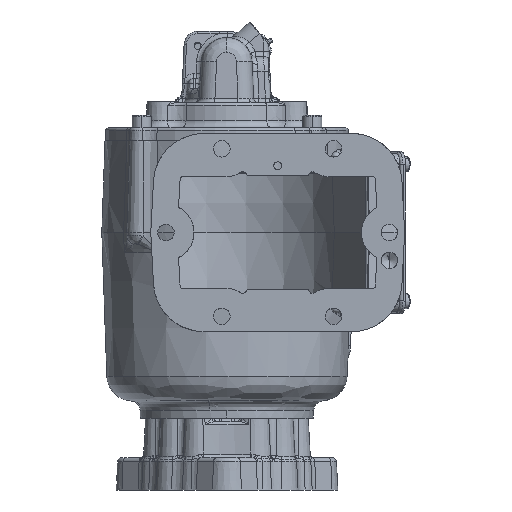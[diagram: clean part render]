
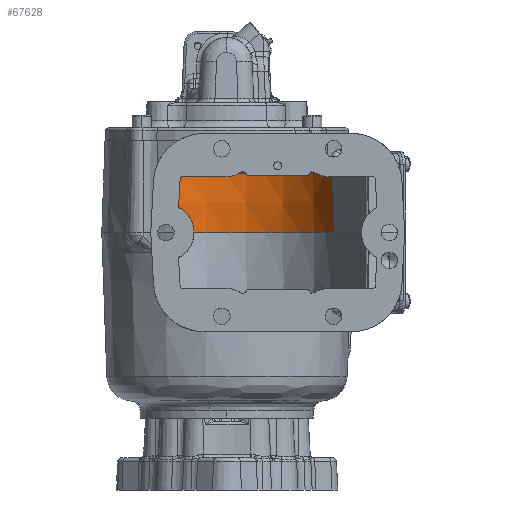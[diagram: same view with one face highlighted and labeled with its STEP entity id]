
A CAD part, front view. The second image highlights one B-rep face of the part: STEP entity #67628.
In plain terms, the highlighted conical face has half-angle 2 degrees and reference radius 71.882 mm.
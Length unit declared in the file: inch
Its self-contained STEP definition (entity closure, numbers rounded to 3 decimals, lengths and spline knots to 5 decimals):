
#547 = VERTEX_POINT ( 'NONE', #136180 ) ;
#5138 = EDGE_CURVE ( 'NONE', #213531, #54963, #124559, .T. ) ;
#13708 = CONICAL_SURFACE ( 'NONE', #67902, 2.83, 0.035 ) ;
#15040 = DIRECTION ( 'NONE',  ( -0.035, 0., -0.999 ) ) ;
#16224 = CARTESIAN_POINT ( 'NONE',  ( 1.39203, 4.34378, 0. ) ) ;
#19075 = DIRECTION ( 'NONE',  ( -1., 0., 0. ) ) ;
#32101 = LINE ( 'NONE', #16224, #80545 ) ;
#34388 = DIRECTION ( 'NONE',  ( 0., 0., 1. ) ) ;
#37200 = CARTESIAN_POINT ( 'NONE',  ( -1.25, 3.3296, 0. ) ) ;
#44723 = CARTESIAN_POINT ( 'NONE',  ( 1.34502, 4.32573, 1.44209 ) ) ;
#52868 = CIRCLE ( 'NONE', #56584, 2.83 ) ;
#54963 = VERTEX_POINT ( 'NONE', #169221 ) ;
#56584 = AXIS2_PLACEMENT_3D ( 'NONE', #178927, #140447, #108679 ) ;
#62782 = VERTEX_POINT ( 'NONE', #186718 ) ;
#62985 = ORIENTED_EDGE ( 'NONE', *, *, #192911, .T. ) ;
#67628 = ADVANCED_FACE ( 'NONE', ( #192513 ), #13708, .F. ) ;
#67902 = AXIS2_PLACEMENT_3D ( 'NONE', #37200, #122258, #19075 ) ;
#80545 = VECTOR ( 'NONE', #136415, 39.37008 ) ;
#85653 = EDGE_CURVE ( 'NONE', #123687, #62782, #52868, .T. ) ;
#101161 = ORIENTED_EDGE ( 'NONE', *, *, #85653, .F. ) ;
#103221 = DIRECTION ( 'NONE',  ( 0., -1., 0. ) ) ;
#104533 = CARTESIAN_POINT ( 'NONE',  ( -4.08, 3.3296, 0. ) ) ;
#105151 = CIRCLE ( 'NONE', #137631, 2.77964 ) ;
#105810 = DIRECTION ( 'NONE',  ( 0., -1., 0. ) ) ;
#108679 = DIRECTION ( 'NONE',  ( 0., -1., 0. ) ) ;
#122258 = DIRECTION ( 'NONE',  ( 0., 0., -1. ) ) ;
#122463 = VECTOR ( 'NONE', #15040, 39.37008 ) ;
#123687 = VERTEX_POINT ( 'NONE', #177360 ) ;
#124559 = CIRCLE ( 'NONE', #200612, 2.77964 ) ;
#136180 = CARTESIAN_POINT ( 'NONE',  ( -4.02964, 3.3296, 1.44209 ) ) ;
#136329 = LINE ( 'NONE', #104533, #122463 ) ;
#136415 = DIRECTION ( 'NONE',  ( -0.033, -0.013, 0.999 ) ) ;
#137631 = AXIS2_PLACEMENT_3D ( 'NONE', #138677, #34388, #105810 ) ;
#138677 = CARTESIAN_POINT ( 'NONE',  ( -1.25, 3.3296, 1.44209 ) ) ;
#139454 = CARTESIAN_POINT ( 'NONE',  ( -1.25, 3.3296, 1.44209 ) ) ;
#140447 = DIRECTION ( 'NONE',  ( 0., 0., 1. ) ) ;
#157606 = DIRECTION ( 'NONE',  ( 0., 0., 1. ) ) ;
#165095 = EDGE_CURVE ( 'NONE', #547, #62782, #136329, .T. ) ;
#169221 = CARTESIAN_POINT ( 'NONE',  ( -1.25, 6.10924, 1.44209 ) ) ;
#171686 = ORIENTED_EDGE ( 'NONE', *, *, #173113, .T. ) ;
#173113 = EDGE_CURVE ( 'NONE', #54963, #547, #105151, .T. ) ;
#177150 = EDGE_LOOP ( 'NONE', ( #221082, #171686, #201468, #101161, #62985 ) ) ;
#177360 = CARTESIAN_POINT ( 'NONE',  ( 1.39203, 4.34378, 0. ) ) ;
#178927 = CARTESIAN_POINT ( 'NONE',  ( -1.25, 3.3296, 0. ) ) ;
#186718 = CARTESIAN_POINT ( 'NONE',  ( -4.08, 3.3296, 0. ) ) ;
#192513 = FACE_OUTER_BOUND ( 'NONE', #177150, .T. ) ;
#192911 = EDGE_CURVE ( 'NONE', #123687, #213531, #32101, .T. ) ;
#200612 = AXIS2_PLACEMENT_3D ( 'NONE', #139454, #157606, #103221 ) ;
#201468 = ORIENTED_EDGE ( 'NONE', *, *, #165095, .T. ) ;
#213531 = VERTEX_POINT ( 'NONE', #44723 ) ;
#221082 = ORIENTED_EDGE ( 'NONE', *, *, #5138, .T. ) ;
